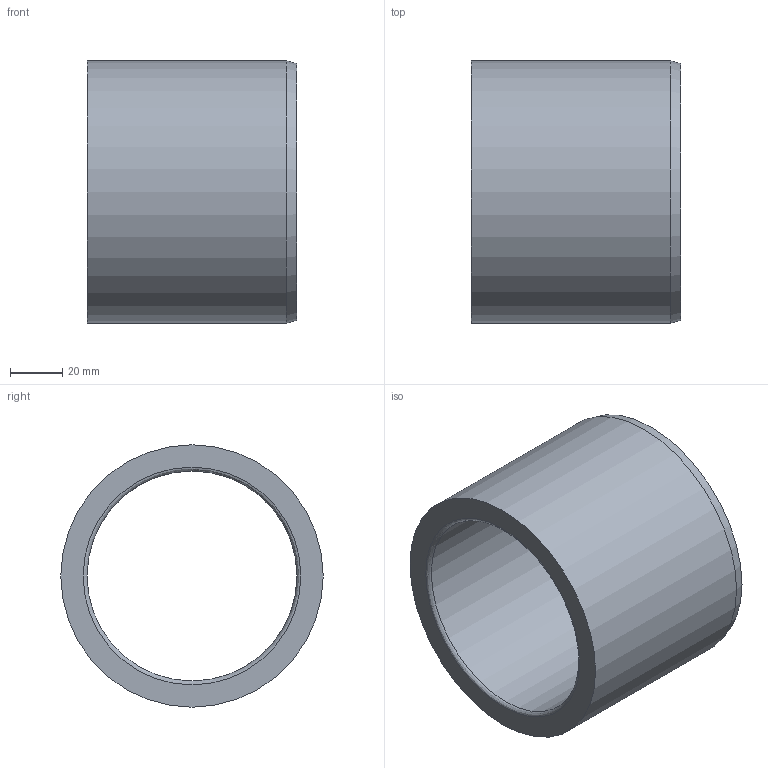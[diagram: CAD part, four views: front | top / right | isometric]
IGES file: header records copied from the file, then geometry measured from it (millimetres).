
Global section: file name: BG04.8010080.ipt; native system: Autodesk Inventor 2021; preprocessor: unknown; author: SM; date: 20211217.163912; units: millimetre
Bounding box: 80 x 100 x 100 mm (x, y, z)
Volume: 225281.3 mm3; surface area: 50269.5 mm2
Topology: 1 solids, 1 shells, 7 faces, 18 edges, 13 vertices
Faces by surface type: revolution 3, plane 2, cylinder 1, cone 1
Full cylindrical faces by diameter (mm): 100 x1
